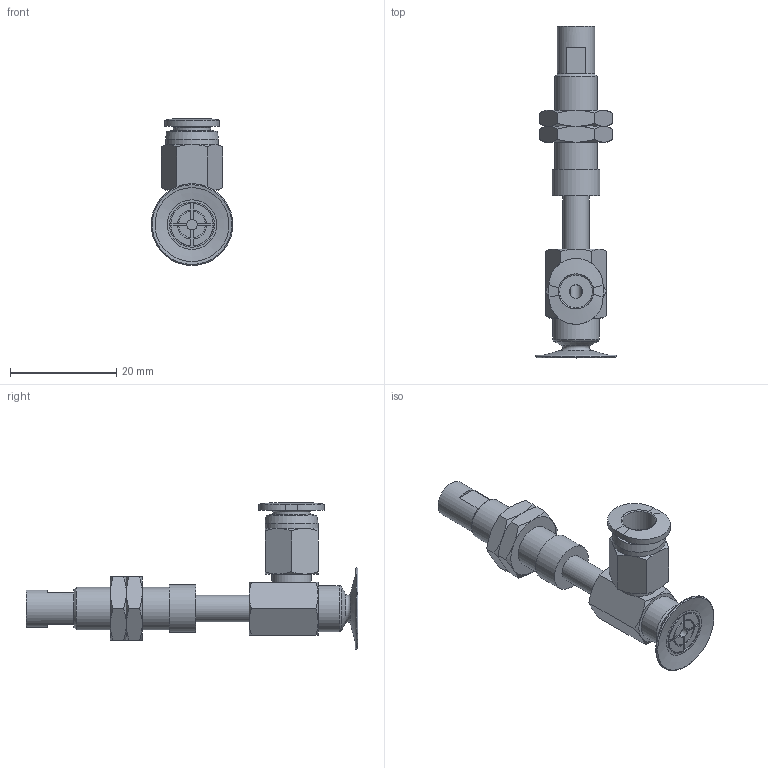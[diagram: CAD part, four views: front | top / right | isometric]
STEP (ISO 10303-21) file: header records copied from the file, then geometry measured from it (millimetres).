
FILE_DESCRIPTION(('STEP AP203'),'1');
FILE_NAME('-O.stp','2025-02-14T01:16:26',(' '),(' '),'Spatial InterOp 3D',' ',' ');
FILE_SCHEMA(('CONFIG_CONTROL_DESIGN'));
Length unit declared in the file: millimetre
Products named in the file (7): BNABPAYS-15B-10-※-O; NAPAYS-10A-10--M; NAPAYS-10A-10--F; Nut-10A-S; CONNECTOR-10A-10-PA; PC-C_06-M5; BPAG-15B-※_3D
Assembly tree (7 placements, depth 2):
  BNABPAYS-15B-10-※-O
    NAPAYS-10A-10--M
    NAPAYS-10A-10--F
    Nut-10A-S  x2
    CONNECTOR-10A-10-PA
    PC-C_06-M5
    BPAG-15B-※_3D
Bounding box: 15.4 x 62.5 x 27.68 mm (x, y, z)
Volume: 3521.9 mm3; surface area: 5536 mm2
Topology: 6 solids, 9 shells, 222 faces, 483 edges, 293 vertices
Faces by surface type: plane 88, cone 76, cylinder 39, torus 12, bspline 4, revolution 3
Full cylindrical faces by diameter (mm): 2 x2, 4 x4, 4.134 x2, 5 x4, 6 x2, 7 x2, 7.188 x2, 7.4 x1, 8 x1, 8.2 x1, 8.5 x1, 8.7 x1, 9 x1, 10 x1
Entity records: 5904 total; most frequent: CARTESIAN_POINT 1603, DIRECTION 821, ORIENTED_EDGE 732, EDGE_CURVE 368, AXIS2_PLACEMENT_3D 350, EDGE_LOOP 280, VERTEX_POINT 252, FACE_OUTER_BOUND 175
